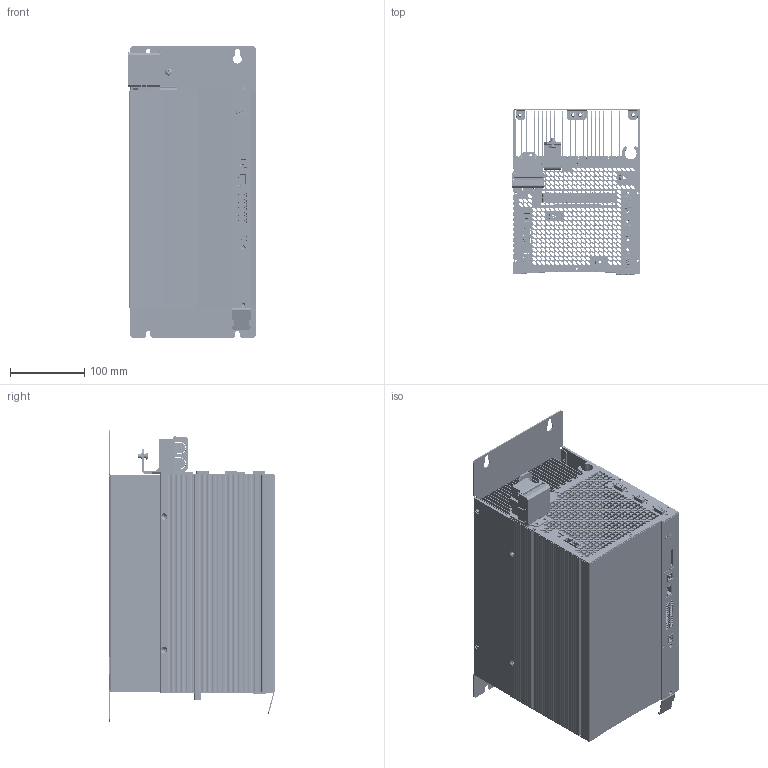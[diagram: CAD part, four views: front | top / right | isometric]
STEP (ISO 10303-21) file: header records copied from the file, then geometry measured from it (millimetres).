
FILE_DESCRIPTION(/* description */ (''),/* implementation_level */ '2;1');
FILE_NAME(/* name */ 'BG4-DC_AC',/* time_stamp */ '2010-01-14T12:12:08+01:00',/* author */ (''),/* organization */ (''),/* preprocessor_version */ 'ST-DEVELOPER v9',/* originating_system */ 'UGS - NX 4.0',/* authorisation */ '');
FILE_SCHEMA (('AUTOMOTIVE_DESIGN { 1 0 10303 214 1 1 1 1 }'));
Length unit declared in the file: millimetre
Products named in the file (1): sdum093C8dbq
Bounding box: 173.1 x 224.2 x 392 mm (x, y, z)
Volume: 1823663.1 mm3; surface area: 1742086.9 mm2
Topology: 61 solids, 61 shells, 8638 faces, 23206 edges, 15012 vertices
Faces by surface type: plane 4639, bspline 1928, cylinder 1719, cone 243, torus 61, sphere 48
Entity records: 341584 total; most frequent: CARTESIAN_POINT 79226, ORIENTED_EDGE 46252, DIRECTION 36025, EDGE_CURVE 23126, LINE 15101, VECTOR 15101, VERTEX_POINT 15012, EDGE_LOOP 11138
